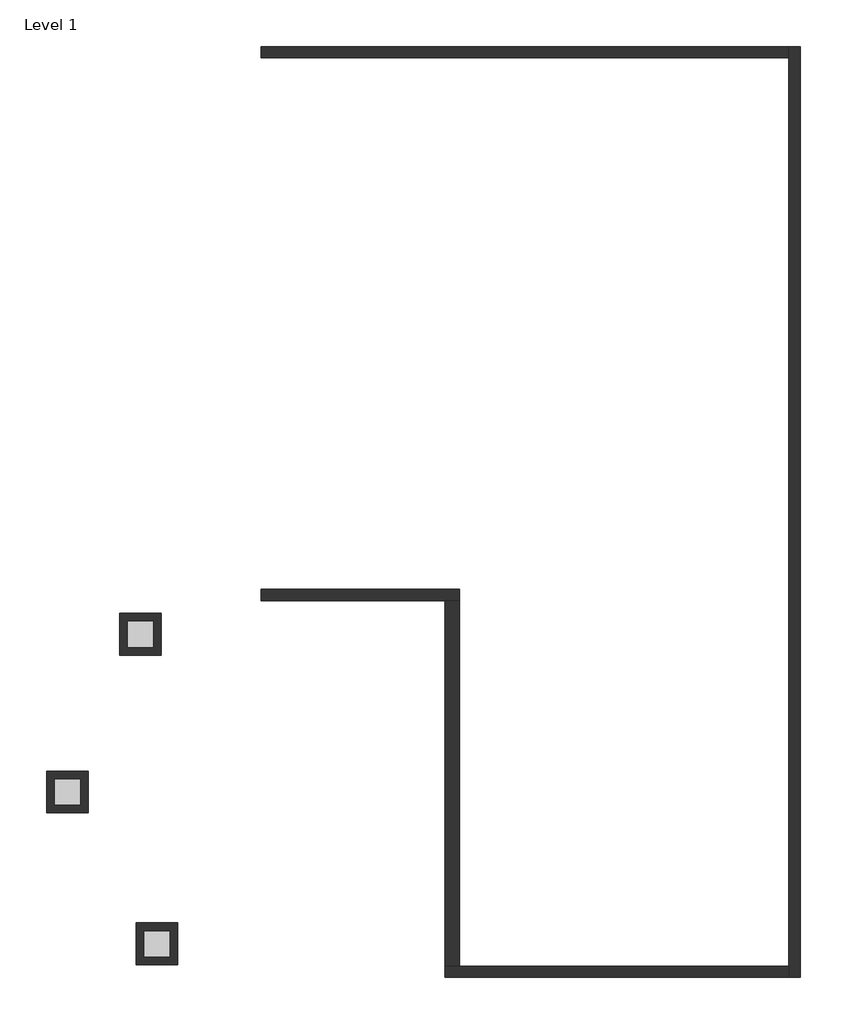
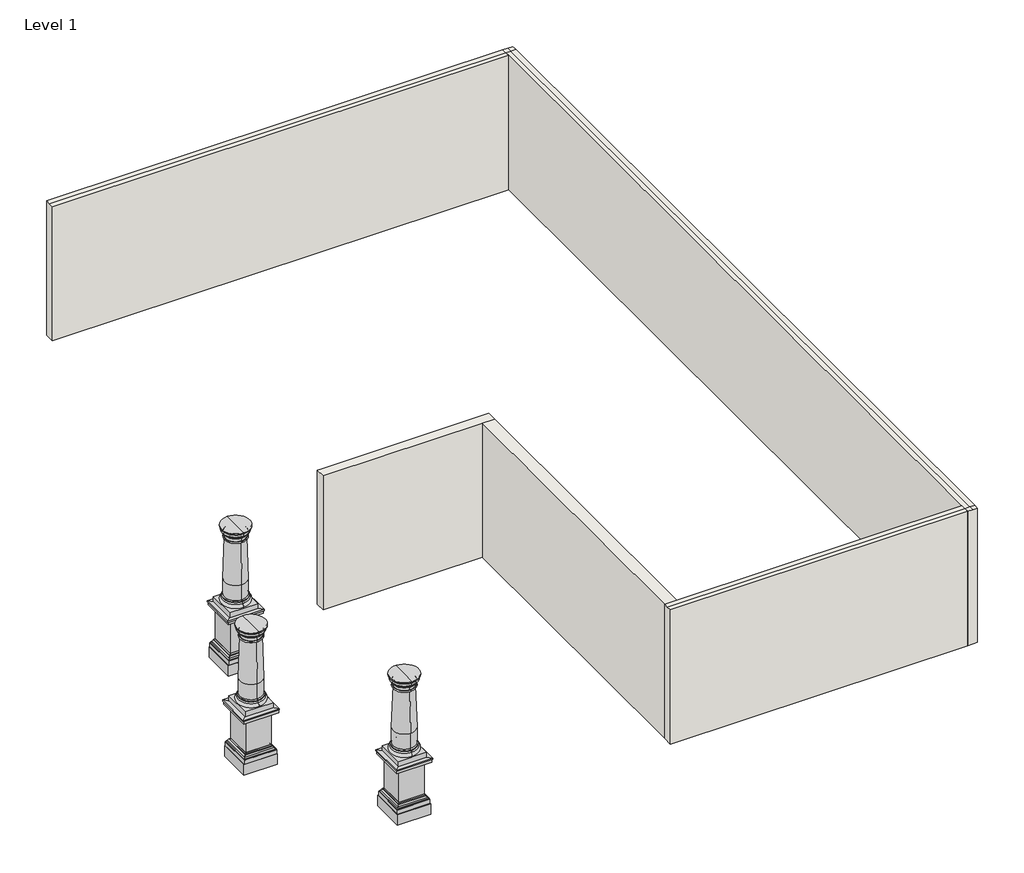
# One storey, incomplete: 5 walls, 3 columns.
"""IFC4 building model written with IfcOpenShell, lengths in millimetres."""

from ifc_helpers import new_model, si_unit, origin, origin_with_axes, place, context, project, spatial, polyline, outline, extrude, faceted_brep, transform, mapped, element, save
from components import doric_column_f5a78e18

model = new_model("IFC4")

# Units and contexts
model_context = context("Model", 3, world=origin())
ifc_project = project(units=[si_unit("LENGTHUNIT", "METRE", prefix="MILLI")], contexts=[model_context])

# Site, building, storey
site = spatial("IfcSite", under=ifc_project)
building = spatial("IfcBuilding", under=site)
storey = spatial("IfcBuildingStorey", under=building, Name="Level 1", Elevation=0.0)

# Columns
placement = place(None, origin())
doric_column_shape = doric_column_f5a78e18(model_context)
element("IfcColumn", 1, ObjectType="Doric Column : 16'  Height (10 2/3 x Dia.)", at=placement, inside=storey, context=model_context, shape_type="MappedRepresentation", body=[
    mapped(doric_column_shape, transform((-19582.191895, 16646.1383993, 0.0), x_axis=(1.0, 0.0, 0.0), y_axis=(0.0, 1.0, 0.0), z_axis=(0.0, 0.0, 1.0))),
])
element("IfcColumn", 2, ObjectType="Doric Column : 16'  Height (10 2/3 x Dia.)", at=placement, inside=storey, context=model_context, shape_type="MappedRepresentation", body=[
    mapped(doric_column_shape, transform((-18280.1285772, 19453.7122635, 0.0), x_axis=(1.0, 0.0, 0.0), y_axis=(0.0, 1.0, 0.0), z_axis=(0.0, 0.0, 1.0))),
])
element("IfcColumn", 3, ObjectType="Doric Column : 16'  Height (10 2/3 x Dia.)", at=placement, inside=storey, context=model_context, shape_type="MappedRepresentation", body=[
    mapped(doric_column_shape, transform((-17988.2502344, 13941.9909091, 0.0), x_axis=(1.0, 0.0, 0.0), y_axis=(0.0, 1.0, 0.0), z_axis=(0.0, 0.0, 1.0))),
])

# Walls
element("IfcWall", 4, ObjectType="Exterior - 10\" Concrete", at=placement, inside=storey, context=model_context, shape_type="SweptSolid", body=[
    extrude(outline(polyline([(-12854.6573223, 13547.3383993), (-12854.6573223, 20049.7383993), (-12600.6573223, 20049.7383993), (-12600.6573223, 13547.3383993), (-12854.6573223, 13547.3383993)])), origin_with_axes(), (0.0, 0.0, 1.0), 2921.0),
])
element("IfcWall", 5, ObjectType="Generic - 8\"", at=placement, inside=storey, context=model_context, shape_type="Brep", body=[
    faceted_brep([(-12854.6573223, 13344.1383993, 0.0), (-6733.2573223, 13344.1383993, 0.0), (-6733.2573223, 13344.1383993, 2921.0), (-12854.6573223, 13344.1383993, 2921.0), (-12854.6573223, 13547.3383993, 0.0), (-12854.6573223, 13547.3383993, 2921.0), (-12600.6573223, 13547.3383993, 2921.0), (-6733.2573223, 13547.3383993, 2921.0), (-6733.2573223, 13547.3383993, 0.0), (-12600.6573223, 13547.3383993, 0.0), (-6733.2573223, 13445.7383993, 2921.0), (-12854.6573223, 13445.7383993, 2921.0)], [[[0, 1, 2, 3]], [[4, 5, 6, 7, 8, 9]], [[1, 0, 4, 9, 8]], [[2, 1, 8, 7, 10]], [[3, 2, 10, 11]], [[10, 7, 6, 5, 11]], [[0, 3, 11, 5, 4]]]),
])
element("IfcWall", 6, ObjectType="Generic - 8\"", at=placement, inside=storey, context=model_context, shape_type="Brep", body=[
    faceted_brep([(-6530.0573223, 13344.1383993, 0.0), (-6530.0573223, 29916.9162395, 0.0), (-6530.0573223, 29916.9162395, 2921.0), (-6530.0573223, 29815.3162395, 2921.0), (-6530.0573223, 13445.7383993, 2921.0), (-6530.0573223, 13344.1383993, 2921.0), (-6733.2573223, 13344.1383993, 0.0), (-6733.2573223, 13344.1383993, 2921.0), (-6733.2573223, 13445.7383993, 2921.0), (-6733.2573223, 13547.3383993, 2921.0), (-6733.2573223, 29713.7162395, 2921.0), (-6733.2573223, 29815.3162395, 2921.0), (-6733.2573223, 29916.9162395, 2921.0), (-6733.2573223, 29916.9162395, 0.0), (-6733.2573223, 29713.7162395, 0.0), (-6733.2573223, 13547.3383993, 0.0), (-6631.6573223, 13344.1383993, 2921.0), (-6631.6573223, 29916.9162395, 2921.0), (-6631.6573223, 29815.3162395, 2921.0), (-6631.6573223, 13445.7383993, 2921.0)], [[[0, 1, 2, 3, 4, 5]], [[6, 7, 8, 9, 10, 11, 12, 13, 14, 15]], [[1, 0, 6, 15, 14, 13]], [[0, 5, 16, 7, 6]], [[2, 1, 13, 12, 17]], [[17, 12, 11, 18]], [[3, 2, 17, 18]], [[8, 7, 16, 19]], [[4, 3, 18, 19]], [[5, 4, 19, 16]], [[18, 11, 10, 9, 8, 19]]]),
])
element("IfcWall", 7, ObjectType="Generic - 8\"", at=placement, inside=storey, context=model_context, shape_type="Brep", body=[
    faceted_brep([(-6733.2573223, 29916.9162395, 0.0), (-16004.2573223, 29916.9162395, 0.0), (-16131.2573223, 29916.9162395, 0.0), (-16131.2573223, 29916.9162395, 2921.0), (-16004.2573223, 29916.9162395, 2921.0), (-6733.2573223, 29916.9162395, 2921.0), (-6733.2573223, 29713.7162395, 0.0), (-6733.2573223, 29713.7162395, 2921.0), (-16004.2573223, 29713.7162395, 2921.0), (-16131.2573223, 29713.7162395, 2921.0), (-16131.2573223, 29713.7162395, 0.0), (-16004.2573223, 29713.7162395, 0.0), (-16131.2573223, 29815.3162395, 2921.0), (-6733.2573223, 29815.3162395, 2921.0)], [[[0, 1, 2, 3, 4, 5]], [[6, 7, 8, 9, 10, 11]], [[2, 1, 0, 6, 11, 10]], [[3, 2, 10, 9, 12]], [[0, 5, 13, 7, 6]], [[5, 4, 3, 12, 13]], [[12, 9, 8, 7, 13]]]),
])
element("IfcWall", 8, ObjectType="Generic - 8\"", at=placement, inside=storey, context=model_context, shape_type="Brep", body=[
    faceted_brep([(-16131.2573223, 20049.7383993, 0.0), (-16004.2573223, 20049.7383993, 0.0), (-12854.6573223, 20049.7383993, 0.0), (-12600.6573223, 20049.7383993, 0.0), (-12600.6573223, 20049.7383993, 2921.0), (-12854.6573223, 20049.7383993, 2921.0), (-16004.2573223, 20049.7383993, 2921.0), (-16131.2573223, 20049.7383993, 2921.0), (-16131.2573223, 20252.9383993, 0.0), (-16131.2573223, 20252.9383993, 2921.0), (-16004.2573223, 20252.9383993, 2921.0), (-12600.6573223, 20252.9383993, 2921.0), (-12600.6573223, 20252.9383993, 0.0), (-16004.2573223, 20252.9383993, 0.0)], [[[0, 1, 2, 3, 4, 5, 6, 7]], [[8, 9, 10, 11, 12, 13]], [[3, 2, 1, 0, 8, 13, 12]], [[0, 7, 9, 8]], [[7, 6, 5, 4, 11, 10, 9]], [[4, 3, 12, 11]]]),
])

save(model, "model.ifc")
